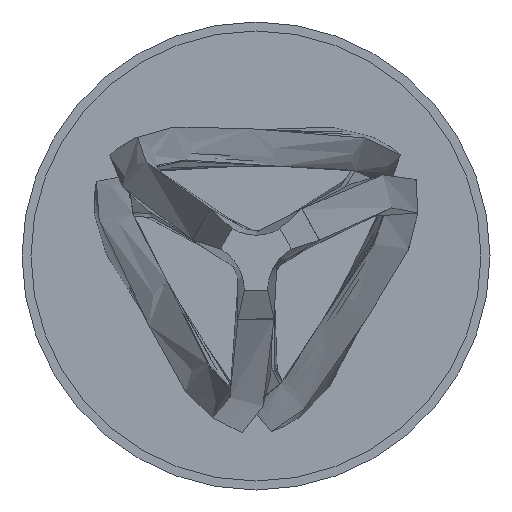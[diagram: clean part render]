
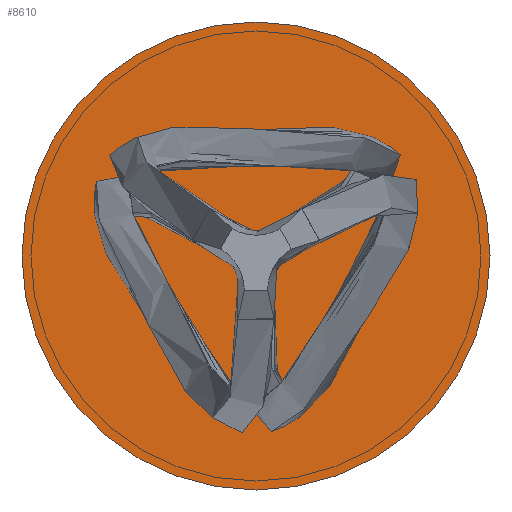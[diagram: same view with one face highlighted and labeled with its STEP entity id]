
A CAD part, front view. The second image highlights one B-rep face of the part: STEP entity #8610.
In plain terms, the highlighted planar face has unit normal (0, -1, 0).
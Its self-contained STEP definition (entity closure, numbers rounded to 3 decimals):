
#157 = CARTESIAN_POINT ( 'NONE',  ( -19.704, 939.398, 3.871 ) ) ;
#470 = CARTESIAN_POINT ( 'NONE',  ( 1.441, 939.398, 11.476 ) ) ;
#604 = DIRECTION ( 'NONE',  ( 0., 0., 1. ) ) ;
#871 = CARTESIAN_POINT ( 'NONE',  ( 6.5, 939.398, -19. ) ) ;
#883 = VERTEX_POINT ( 'NONE', #1127 ) ;
#1002 = LINE ( 'NONE', #3158, #4744 ) ;
#1085 = CARTESIAN_POINT ( 'NONE',  ( 6.5, 939.398, -19. ) ) ;
#1127 = CARTESIAN_POINT ( 'NONE',  ( 13.204, 939.398, 15.129 ) ) ;
#1161 = EDGE_CURVE ( 'NONE', #3102, #1700, #7546, .T. ) ;
#1178 = CARTESIAN_POINT ( 'NONE',  ( -7.366, 939.398, 12.445 ) ) ;
#1308 = ORIENTED_EDGE ( 'NONE', *, *, #7566, .F. ) ;
#1329 = EDGE_CURVE ( 'NONE', #883, #7376, #2705, .T. ) ;
#1347 = VERTEX_POINT ( 'NONE', #5384 ) ;
#1700 = VERTEX_POINT ( 'NONE', #2530 ) ;
#1859 = CARTESIAN_POINT ( 'NONE',  ( 0., 939.398, 0. ) ) ;
#1880 = CARTESIAN_POINT ( 'NONE',  ( -13.204, 939.398, 15.129 ) ) ;
#1887 = CARTESIAN_POINT ( 'NONE',  ( -16.897, 939.398, 2.25 ) ) ;
#2078 = CARTESIAN_POINT ( 'NONE',  ( 13.204, 939.398, 15.129 ) ) ;
#2175 = EDGE_LOOP ( 'NONE', ( #4640, #2977, #4147, #1308, #4116, #2954 ) ) ;
#2270 = DIRECTION ( 'NONE',  ( -1., 0., 0. ) ) ;
#2413 = FACE_OUTER_BOUND ( 'NONE', #8788, .T. ) ;
#2493 = CARTESIAN_POINT ( 'NONE',  ( 7.094, 939.398, -12.601 ) ) ;
#2504 = EDGE_CURVE ( 'NONE', #1347, #7792, #8830, .T. ) ;
#2530 = CARTESIAN_POINT ( 'NONE',  ( 0., 939.398, 130. ) ) ;
#2575 = CIRCLE ( 'NONE', #3419, 130. ) ;
#2587 = CARTESIAN_POINT ( 'NONE',  ( -14.46, 939.398, 0.157 ) ) ;
#2705 = B_SPLINE_CURVE_WITH_KNOTS ( 'NONE', 3,
 ( #4530, #3255, #4662, #470, #5351, #1178, #6057, #1880 ),
 .UNSPECIFIED., .F., .F.,
 ( 4, 2, 2, 4 ),
 ( 0., 0.009, 0.018, 0.028 ),
 .UNSPECIFIED. ) ;
#2954 = ORIENTED_EDGE ( 'NONE', *, *, #1329, .F. ) ;
#2977 = ORIENTED_EDGE ( 'NONE', *, *, #8518, .F. ) ;
#3016 = B_SPLINE_CURVE_WITH_KNOTS ( 'NONE', 3,
 ( #2078, #6255, #7666, #3493 ),
 .UNSPECIFIED., .F., .F.,
 ( 4, 4 ),
 ( 0., 1. ),
 .UNSPECIFIED. ) ;
#3090 = CARTESIAN_POINT ( 'NONE',  ( 19.704, 939.398, 3.871 ) ) ;
#3102 = VERTEX_POINT ( 'NONE', #4506 ) ;
#3135 = DIRECTION ( 'NONE',  ( 0., 1., 0. ) ) ;
#3158 = CARTESIAN_POINT ( 'NONE',  ( -19.704, 939.398, 3.871 ) ) ;
#3194 = CARTESIAN_POINT ( 'NONE',  ( 10.659, 939.398, -4.49 ) ) ;
#3255 = CARTESIAN_POINT ( 'NONE',  ( 10.397, 939.398, 13.508 ) ) ;
#3296 = CARTESIAN_POINT ( 'NONE',  ( -9.218, 939.398, -6.986 ) ) ;
#3419 = AXIS2_PLACEMENT_3D ( 'NONE', #7324, #3135, #8025 ) ;
#3442 = VERTEX_POINT ( 'NONE', #3090 ) ;
#3451 = AXIS2_PLACEMENT_3D ( 'NONE', #8275, #4792, #604 ) ;
#3493 = CARTESIAN_POINT ( 'NONE',  ( 19.704, 939.398, 3.871 ) ) ;
#3508 = AXIS2_PLACEMENT_3D ( 'NONE', #1859, #6761, #8822 ) ;
#3913 = CARTESIAN_POINT ( 'NONE',  ( 16.897, 939.398, 2.25 ) ) ;
#4012 = CARTESIAN_POINT ( 'NONE',  ( -6.5, 939.398, -15.758 ) ) ;
#4116 = ORIENTED_EDGE ( 'NONE', *, *, #8884, .T. ) ;
#4147 = ORIENTED_EDGE ( 'NONE', *, *, #2504, .T. ) ;
#4370 = EDGE_CURVE ( 'NONE', #883, #3442, #3016, .T. ) ;
#4506 = CARTESIAN_POINT ( 'NONE',  ( 0., 939.398, -130. ) ) ;
#4530 = CARTESIAN_POINT ( 'NONE',  ( 13.204, 939.398, 15.129 ) ) ;
#4640 = ORIENTED_EDGE ( 'NONE', *, *, #4370, .T. ) ;
#4662 = CARTESIAN_POINT ( 'NONE',  ( 7.366, 939.398, 12.445 ) ) ;
#4744 = VECTOR ( 'NONE', #8046, 1000. ) ;
#4792 = DIRECTION ( 'NONE',  ( 0., 1., 0. ) ) ;
#5073 = EDGE_CURVE ( 'NONE', #1700, #3102, #2575, .T. ) ;
#5262 = CARTESIAN_POINT ( 'NONE',  ( 6.5, 939.398, -15.758 ) ) ;
#5323 = VECTOR ( 'NONE', #2270, 1000. ) ;
#5351 = CARTESIAN_POINT ( 'NONE',  ( -1.441, 939.398, 11.476 ) ) ;
#5384 = CARTESIAN_POINT ( 'NONE',  ( 6.5, 939.398, -19. ) ) ;
#5450 = PLANE ( 'NONE',  #3451 ) ;
#5673 = CARTESIAN_POINT ( 'NONE',  ( -6.5, 939.398, -19. ) ) ;
#6057 = CARTESIAN_POINT ( 'NONE',  ( -10.397, 939.398, 13.508 ) ) ;
#6066 = CARTESIAN_POINT ( 'NONE',  ( -19.704, 939.398, 3.871 ) ) ;
#6197 = ORIENTED_EDGE ( 'NONE', *, *, #5073, .F. ) ;
#6255 = CARTESIAN_POINT ( 'NONE',  ( 15.371, 939.398, 11.376 ) ) ;
#6285 = VERTEX_POINT ( 'NONE', #157 ) ;
#6725 = ORIENTED_EDGE ( 'NONE', *, *, #1161, .F. ) ;
#6761 = DIRECTION ( 'NONE',  ( 0., 1., 0. ) ) ;
#7324 = CARTESIAN_POINT ( 'NONE',  ( 0., 939.398, 0. ) ) ;
#7376 = VERTEX_POINT ( 'NONE', #8576 ) ;
#7384 = CARTESIAN_POINT ( 'NONE',  ( 9.218, 939.398, -6.986 ) ) ;
#7471 = CARTESIAN_POINT ( 'NONE',  ( -10.659, 939.398, -4.49 ) ) ;
#7546 = CIRCLE ( 'NONE', #3508, 130. ) ;
#7566 = EDGE_CURVE ( 'NONE', #6285, #7792, #8142, .T. ) ;
#7666 = CARTESIAN_POINT ( 'NONE',  ( 17.538, 939.398, 7.624 ) ) ;
#7792 = VERTEX_POINT ( 'NONE', #5673 ) ;
#7981 = FACE_BOUND ( 'NONE', #2175, .T. ) ;
#8025 = DIRECTION ( 'NONE',  ( 0., 0., 1. ) ) ;
#8046 = DIRECTION ( 'NONE',  ( 0.5, 0., 0.866 ) ) ;
#8088 = CARTESIAN_POINT ( 'NONE',  ( 14.46, 939.398, 0.157 ) ) ;
#8142 = B_SPLINE_CURVE_WITH_KNOTS ( 'NONE', 3,
 ( #6066, #1887, #2587, #7471, #3296, #8183, #4012, #8876 ),
 .UNSPECIFIED., .F., .F.,
 ( 4, 2, 2, 4 ),
 ( 0., 0.009, 0.018, 0.028 ),
 .UNSPECIFIED. ) ;
#8154 = B_SPLINE_CURVE_WITH_KNOTS ( 'NONE', 3,
 ( #1085, #5262, #2493, #7384, #3194, #8088, #3913, #8779 ),
 .UNSPECIFIED., .F., .F.,
 ( 4, 2, 2, 4 ),
 ( 0., 0.009, 0.018, 0.028 ),
 .UNSPECIFIED. ) ;
#8183 = CARTESIAN_POINT ( 'NONE',  ( -7.094, 939.398, -12.601 ) ) ;
#8275 = CARTESIAN_POINT ( 'NONE',  ( 0., 939.398, 0. ) ) ;
#8518 = EDGE_CURVE ( 'NONE', #1347, #3442, #8154, .T. ) ;
#8576 = CARTESIAN_POINT ( 'NONE',  ( -13.204, 939.398, 15.129 ) ) ;
#8610 = ADVANCED_FACE ( 'NONE', ( #2413, #7981 ), #5450, .F. ) ;
#8779 = CARTESIAN_POINT ( 'NONE',  ( 19.704, 939.398, 3.871 ) ) ;
#8788 = EDGE_LOOP ( 'NONE', ( #6725, #6197 ) ) ;
#8822 = DIRECTION ( 'NONE',  ( 0., 0., 1. ) ) ;
#8830 = LINE ( 'NONE', #871, #5323 ) ;
#8876 = CARTESIAN_POINT ( 'NONE',  ( -6.5, 939.398, -19. ) ) ;
#8884 = EDGE_CURVE ( 'NONE', #6285, #7376, #1002, .T. ) ;
